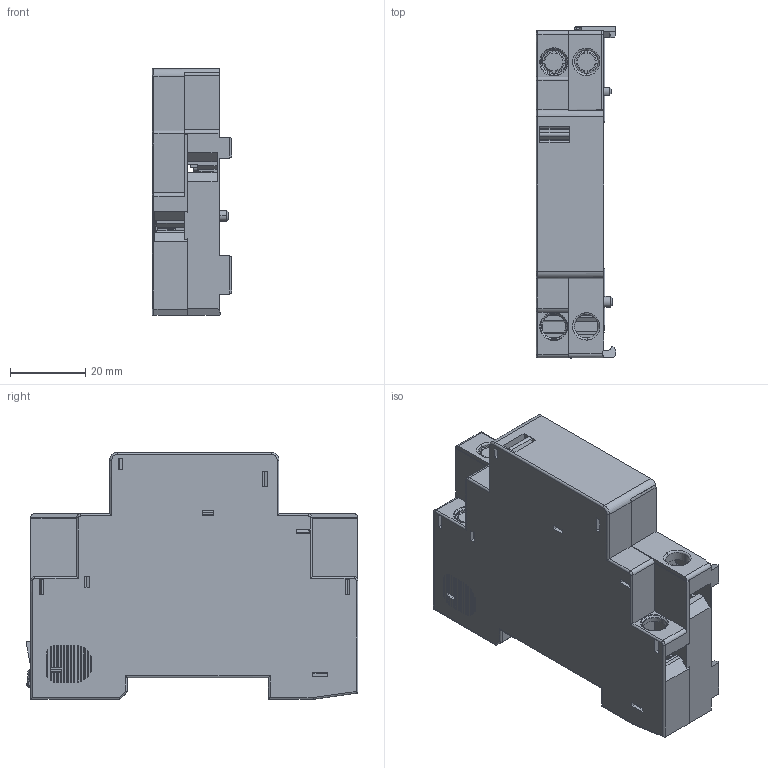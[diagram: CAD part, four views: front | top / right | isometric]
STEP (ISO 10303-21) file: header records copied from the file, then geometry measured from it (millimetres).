
FILE_DESCRIPTION (( 'STEP AP214' ), '1' );
FILE_NAME ('SRUV.STEP', '2026-01-30T11:53:58', ( '' ), ( '' ), 'SwSTEP 2.0', 'SolidWorks 2024', '' );
FILE_SCHEMA (( 'AUTOMOTIVE_DESIGN' ));
Length unit declared in the file: millimetre
Products named in the file (5): DIZUO_1.stp; SRUV; GAI_1.stp; KAKOU_1.stp; SRUV.stp
Assembly tree (4 placements, depth 3):
  SRUV
    SRUV.stp
      DIZUO_1.stp
      GAI_1.stp
      KAKOU_1.stp
Bounding box: 21.3 x 88.47 x 65.8 mm (x, y, z)
Volume: 23820.3 mm3; surface area: 44893.5 mm2
Topology: 3 solids, 3 shells, 2100 faces, 5964 edges, 3891 vertices
Faces by surface type: plane 1610, cylinder 384, cone 70, torus 25, bspline 11
Entity records: 69030 total; most frequent: CARTESIAN_POINT 14151, ORIENTED_EDGE 11920, DIRECTION 10706, EDGE_CURVE 5960, LINE 4826, VECTOR 4826, VERTEX_POINT 3889, AXIS2_PLACEMENT_3D 2940
